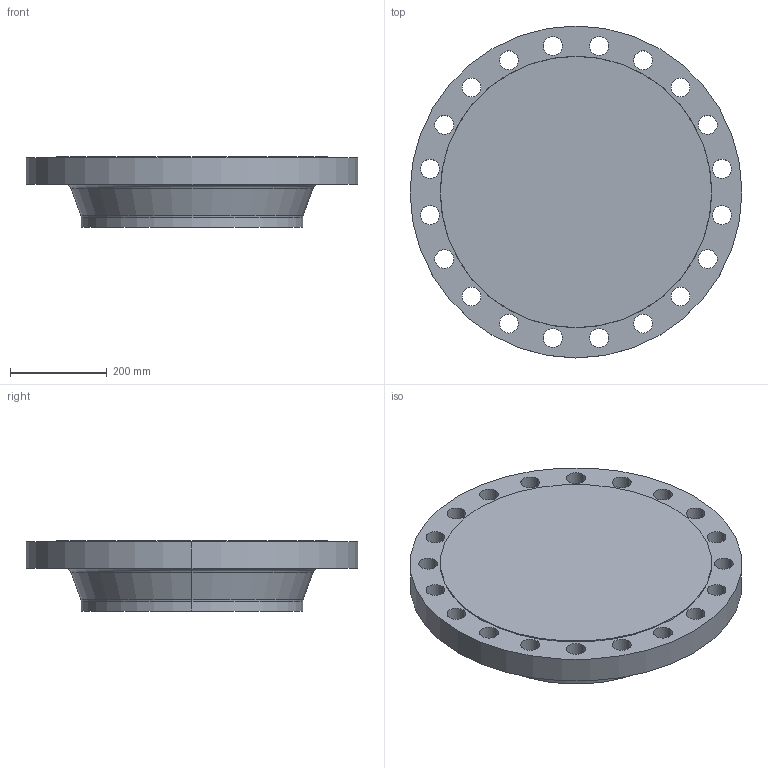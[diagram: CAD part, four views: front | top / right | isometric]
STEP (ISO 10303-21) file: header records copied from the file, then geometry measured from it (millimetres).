
FILE_DESCRIPTION (( 'STEP AP214' ), '1' );
FILE_NAME ('PN40 DN450 Type 21(ii) - Type B Face.STEP', '2018-12-29T04:51:25', ( '' ), ( '' ), 'SwSTEP 2.0', 'SolidWorks 2019', '' );
FILE_SCHEMA (( 'AUTOMOTIVE_DESIGN' ));
Length unit declared in the file: millimetre
Products named in the file (1): PN40 DN450 Type 21(ii) - Type B Face
Bounding box: 685 x 685 x 145 mm (x, y, z)
Volume: 35084024.6 mm3; surface area: 1043293.2 mm2
Topology: 1 solids, 1 shells, 56 faces, 150 edges, 98 vertices
Faces by surface type: cylinder 44, torus 4, cone 4, plane 4
Entity records: 1922 total; most frequent: DIRECTION 366, CARTESIAN_POINT 305, ORIENTED_EDGE 300, AXIS2_PLACEMENT_3D 159, EDGE_CURVE 150, CIRCLE 102, VERTEX_POINT 98, EDGE_LOOP 98
